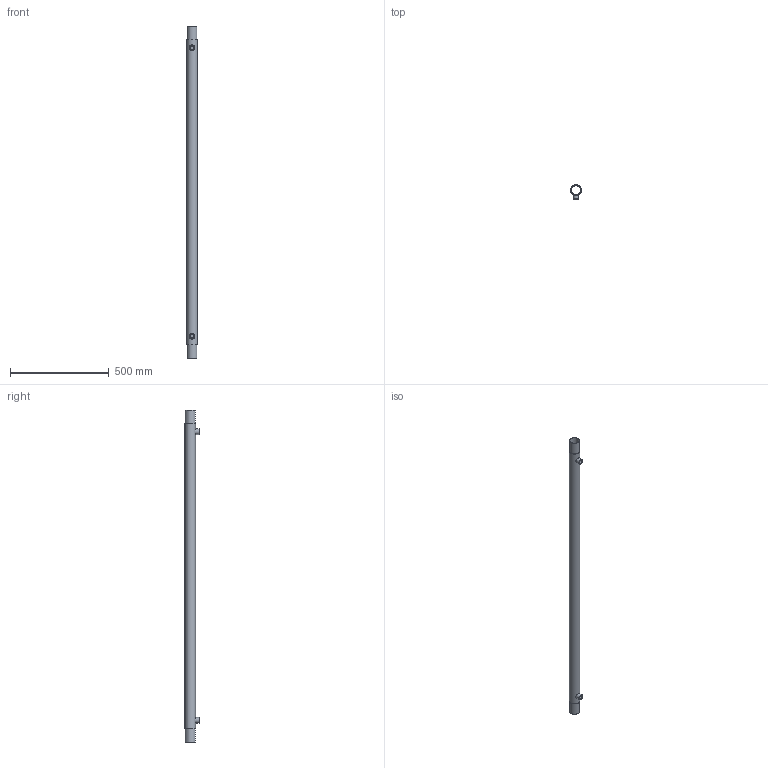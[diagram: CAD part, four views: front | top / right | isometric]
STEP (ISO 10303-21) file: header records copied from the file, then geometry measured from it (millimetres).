
FILE_DESCRIPTION(/* description */ (''),/* implementation_level */ '2;1');
FILE_NAME(/* name */ 'QB1-16.step',/* time_stamp */ '2025-07-22T10:20:43+02:00',/* author */ (''),/* organization */ (''),/* preprocessor_version */ 'ST-DEVELOPER v20.1',/* originating_system */ 'Autodesk Translation Framework v14.10.0.0',/* authorisation */ '');
FILE_SCHEMA (('AUTOMOTIVE_DESIGN { 1 0 10303 214 3 1 1 }'));
Length unit declared in the file: millimetre
Products named in the file (2): QB1-16; Loetmuffe
Assembly tree (1 placements, depth 2):
  QB1-16
    Loetmuffe
Bounding box: 54 x 72 x 1680 mm (x, y, z)
Volume: 902658.3 mm3; surface area: 1025963.1 mm2
Topology: 4 solids, 4 shells, 20 faces, 34 edges, 24 vertices
Faces by surface type: cylinder 12, plane 8
Full cylindrical faces by diameter (mm): 18.901 x2, 20 x2, 28 x2, 47 x1, 50 x2, 54 x1
Entity records: 713 total; most frequent: CARTESIAN_POINT 249, DIRECTION 88, ORIENTED_EDGE 68, AXIS2_PLACEMENT_3D 39, EDGE_CURVE 34, EDGE_LOOP 30, VERTEX_POINT 24, FACE_OUTER_BOUND 20
